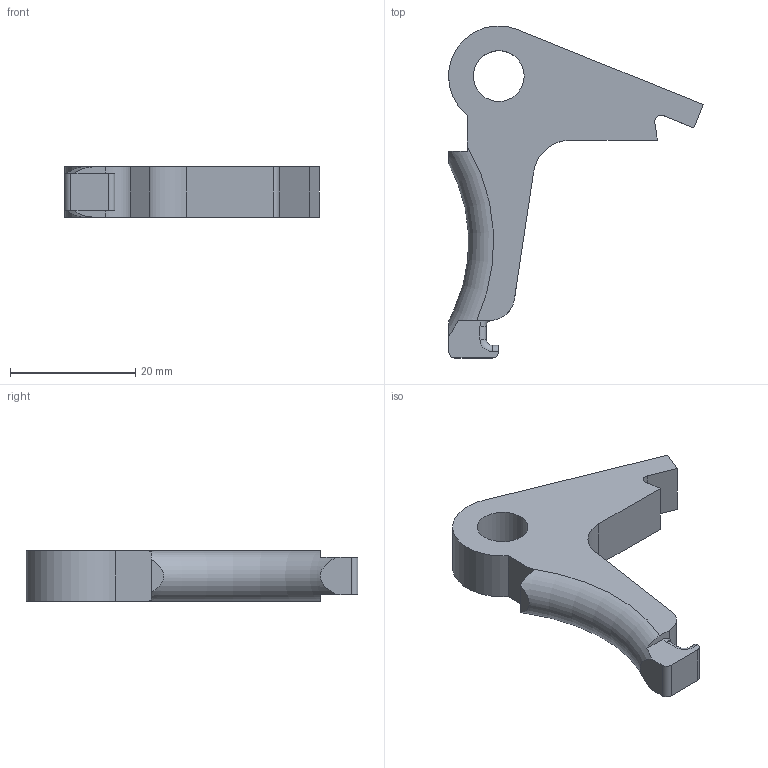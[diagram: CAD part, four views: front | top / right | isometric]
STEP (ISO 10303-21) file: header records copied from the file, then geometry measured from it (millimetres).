
FILE_DESCRIPTION((''),'2;1');
FILE_NAME('C:\Users\JamesRPatrick\Documents\Autodesk\PM422\STEP2.0\PM422Trigger2.stp','2015-08-22T19:04:22',('JamesRPatrick'),(''),'Autodesk Inventor 2012','Autodesk Inventor 2012','');
FILE_SCHEMA(('AUTOMOTIVE_DESIGN { 1 0 10303 214 1 1 1 1 }'));
Length unit declared in the file: millimetre
Products named in the file (1): PM422Trigger2
Bounding box: 40.67 x 52.99 x 8 mm (x, y, z)
Volume: 5899.6 mm3; surface area: 3011.6 mm2
Topology: 1 solids, 1 shells, 38 faces, 102 edges, 66 vertices
Faces by surface type: plane 20, cylinder 13, torus 5
Full cylindrical faces by diameter (mm): 8.1 x1
Entity records: 1295 total; most frequent: CARTESIAN_POINT 312, ORIENTED_EDGE 202, DIRECTION 199, EDGE_CURVE 101, AXIS2_PLACEMENT_3D 73, VERTEX_POINT 66, VECTOR 53, LINE 53
